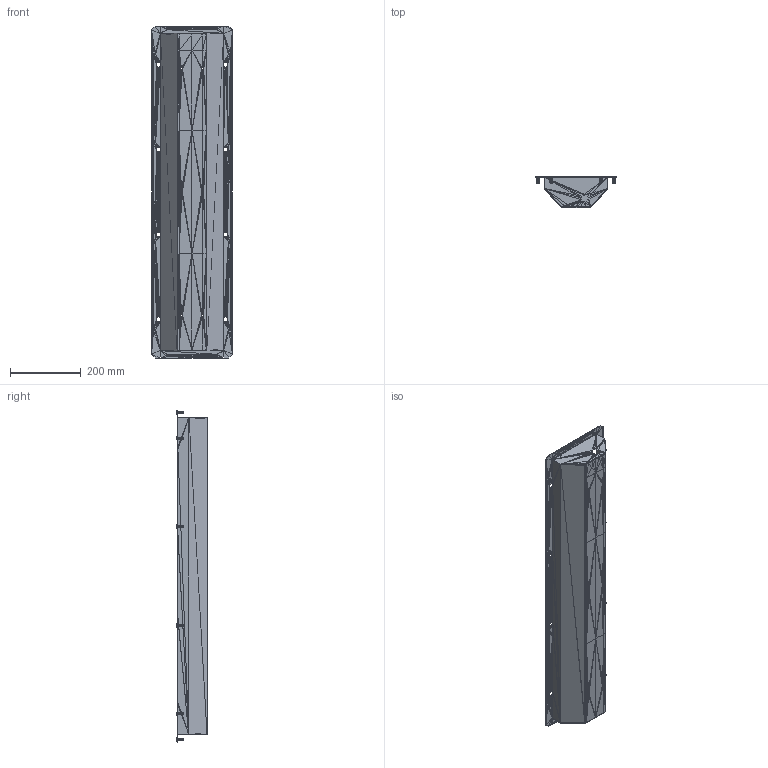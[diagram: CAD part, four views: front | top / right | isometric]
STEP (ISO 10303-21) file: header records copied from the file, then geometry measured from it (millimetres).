
FILE_DESCRIPTION((''),'2;1');
FILE_NAME('000939', '2025-08-12T05:44:10', (''), (''), 'ImageToStl.com STEP Converter','', '');
FILE_SCHEMA(('AUTOMOTIVE_DESIGN_CC2'));
Length unit declared in the file: metre
Products named in the file (1): product0
Bounding box: 229 x 86.9 x 940 mm (x, y, z)
Surface area: 686601.1 mm2 (no closed solid volume)
Topology: 0 solids, 5378 shells, 5378 faces, 16134 edges, 2631 vertices
Faces by surface type: plane 5378
Entity records: 123606 total; most frequent: DIRECTION 26892, ORIENTED_EDGE 16134, EDGE_CURVE 16134, LINE 16134, VECTOR 16134, AXIS2_PLACEMENT_3D 5379, FACE_SURFACE 5378, PLANE 5378
